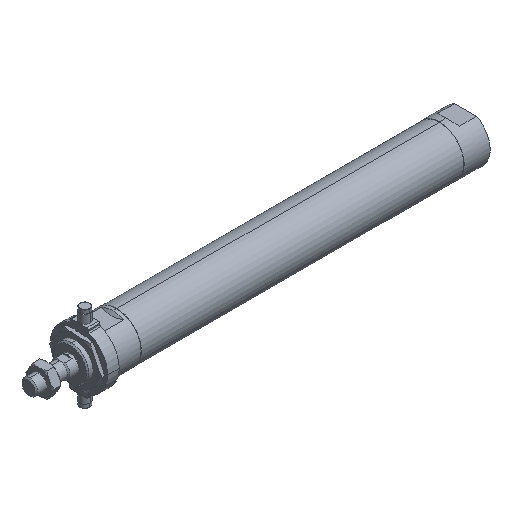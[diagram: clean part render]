
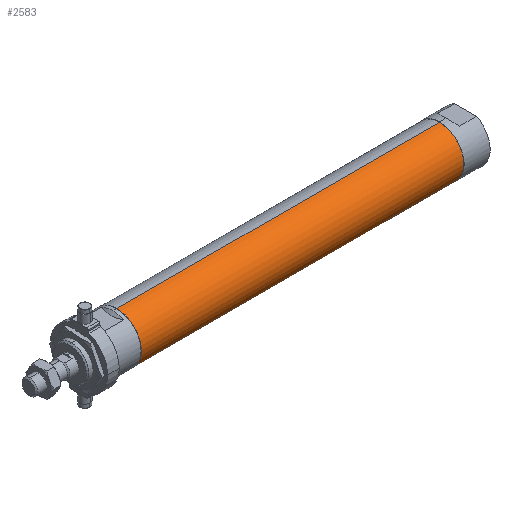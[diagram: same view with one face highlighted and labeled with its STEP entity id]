
A CAD part, isometric view. The second image highlights one B-rep face of the part: STEP entity #2583.
In plain terms, the highlighted cylindrical face has radius 18.8 mm (diameter 37.6 mm), a partial arc.
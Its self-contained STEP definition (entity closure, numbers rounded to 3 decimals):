
#264 = DIRECTION ( 'NONE',  ( 0., 0., 1. ) ) ;
#400 = CARTESIAN_POINT ( 'NONE',  ( -1.784, 0., 18.8 ) ) ;
#401 = VERTEX_POINT ( 'NONE', #2220 ) ;
#518 = VERTEX_POINT ( 'NONE', #1713 ) ;
#524 = CARTESIAN_POINT ( 'NONE',  ( 68., 0., 0. ) ) ;
#647 = DIRECTION ( 'NONE',  ( -1., 0., 0. ) ) ;
#802 = DIRECTION ( 'NONE',  ( 0., 0., 1. ) ) ;
#875 = VERTEX_POINT ( 'NONE', #4042 ) ;
#1081 = DIRECTION ( 'NONE',  ( -1., 0., 0. ) ) ;
#1195 = VECTOR ( 'NONE', #1081, 1000. ) ;
#1359 = LINE ( 'NONE', #400, #1195 ) ;
#1364 = EDGE_CURVE ( 'NONE', #518, #875, #3349, .T. ) ;
#1465 = LINE ( 'NONE', #3836, #4038 ) ;
#1708 = DIRECTION ( 'NONE',  ( -1., 0., 0. ) ) ;
#1713 = CARTESIAN_POINT ( 'NONE',  ( 317., 0., -18.8 ) ) ;
#1750 = VERTEX_POINT ( 'NONE', #3512 ) ;
#1833 = ORIENTED_EDGE ( 'NONE', *, *, #3593, .F. ) ;
#1837 = AXIS2_PLACEMENT_3D ( 'NONE', #4125, #647, #264 ) ;
#1840 = EDGE_CURVE ( 'NONE', #875, #1750, #1359, .T. ) ;
#2220 = CARTESIAN_POINT ( 'NONE',  ( 68., 0., -18.8 ) ) ;
#2392 = AXIS2_PLACEMENT_3D ( 'NONE', #3638, #2911, #802 ) ;
#2533 = ORIENTED_EDGE ( 'NONE', *, *, #3946, .F. ) ;
#2583 = ADVANCED_FACE ( 'NONE', ( #4385 ), #3341, .T. ) ;
#2674 = ORIENTED_EDGE ( 'NONE', *, *, #1840, .T. ) ;
#2790 = AXIS2_PLACEMENT_3D ( 'NONE', #524, #3691, #3707 ) ;
#2895 = CIRCLE ( 'NONE', #2790, 18.8 ) ;
#2911 = DIRECTION ( 'NONE',  ( -1., 0., 0. ) ) ;
#3341 = CYLINDRICAL_SURFACE ( 'NONE', #1837, 18.8 ) ;
#3349 = CIRCLE ( 'NONE', #2392, 18.8 ) ;
#3512 = CARTESIAN_POINT ( 'NONE',  ( 68., 0., 18.8 ) ) ;
#3593 = EDGE_CURVE ( 'NONE', #401, #1750, #2895, .T. ) ;
#3638 = CARTESIAN_POINT ( 'NONE',  ( 317., 0., 0. ) ) ;
#3691 = DIRECTION ( 'NONE',  ( -1., 0., 0. ) ) ;
#3707 = DIRECTION ( 'NONE',  ( 0., 0., 1. ) ) ;
#3836 = CARTESIAN_POINT ( 'NONE',  ( -1.784, 0., -18.8 ) ) ;
#3912 = ORIENTED_EDGE ( 'NONE', *, *, #1364, .T. ) ;
#3946 = EDGE_CURVE ( 'NONE', #518, #401, #1465, .T. ) ;
#3955 = EDGE_LOOP ( 'NONE', ( #2533, #3912, #2674, #1833 ) ) ;
#4038 = VECTOR ( 'NONE', #1708, 1000. ) ;
#4042 = CARTESIAN_POINT ( 'NONE',  ( 317., 0., 18.8 ) ) ;
#4125 = CARTESIAN_POINT ( 'NONE',  ( -1.784, 0., 0. ) ) ;
#4385 = FACE_OUTER_BOUND ( 'NONE', #3955, .T. ) ;
